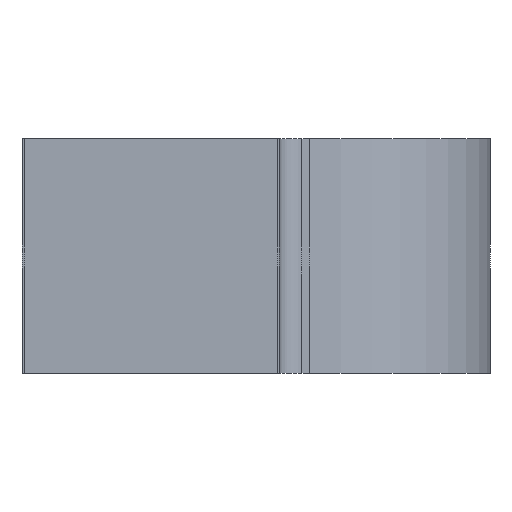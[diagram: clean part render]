
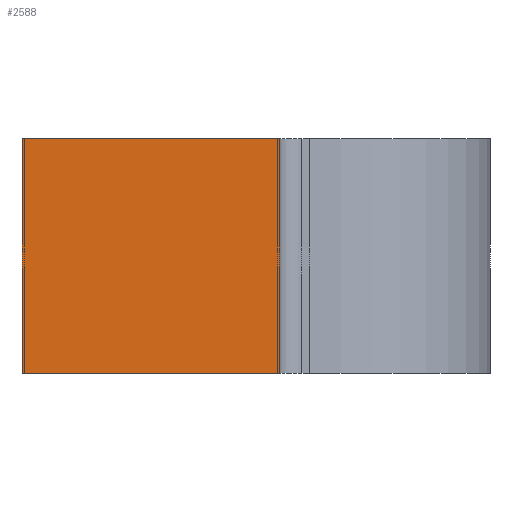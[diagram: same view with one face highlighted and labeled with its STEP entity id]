
A CAD part, left-side view. The second image highlights one B-rep face of the part: STEP entity #2588.
In plain terms, the highlighted planar face has unit normal (-1, 0, 0) as drawn and (1, 0, 0) by its records, which use the part's own axes.
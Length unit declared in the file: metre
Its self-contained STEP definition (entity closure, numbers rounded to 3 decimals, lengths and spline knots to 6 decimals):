
#225=ORIENTED_EDGE('',*,*,#970,.T.);
#226=ORIENTED_EDGE('',*,*,#969,.F.);
#227=ORIENTED_EDGE('',*,*,#971,.F.);
#228=ORIENTED_EDGE('',*,*,#956,.T.);
#956=EDGE_CURVE('',#1334,#1333,#1591,.T.);
#969=EDGE_CURVE('',#1343,#1339,#1604,.T.);
#970=EDGE_CURVE('',#1333,#1339,#1605,.T.);
#971=EDGE_CURVE('',#1334,#1343,#1606,.T.);
#1333=VERTEX_POINT('',#3575);
#1334=VERTEX_POINT('',#3577);
#1339=VERTEX_POINT('',#3592);
#1343=VERTEX_POINT('',#3600);
#1591=LINE('',#3576,#1890);
#1604=LINE('',#3601,#1903);
#1605=LINE('',#3603,#1904);
#1606=LINE('',#3604,#1905);
#1890=VECTOR('',#2979,1.);
#1903=VECTOR('',#2996,1.);
#1904=VECTOR('',#2999,1.);
#1905=VECTOR('',#3000,1.);
#2182=EDGE_LOOP('',(#225,#226,#227,#228));
#2333=FACE_BOUND('',#2182,.T.);
#2484=PLANE('',#2807);
#2588=ADVANCED_FACE('',(#2333),#2484,.F.);
#2807=AXIS2_PLACEMENT_3D('',#3602,#2997,#2998);
#2979=DIRECTION('',(0.,-1.,0.));
#2996=DIRECTION('',(0.,-1.,0.));
#2997=DIRECTION('',(-1.,0.,0.));
#2998=DIRECTION('',(0.,0.,1.));
#2999=DIRECTION('',(0.,0.,-1.));
#3000=DIRECTION('',(0.,0.,-1.));
#3575=CARTESIAN_POINT('',(0.0015,0.,0.001));
#3576=CARTESIAN_POINT('',(0.0015,0.00001,0.001));
#3577=CARTESIAN_POINT('',(0.0015,0.0011,0.001));
#3592=CARTESIAN_POINT('',(0.0015,0.,0.));
#3600=CARTESIAN_POINT('',(0.0015,0.0011,0.));
#3601=CARTESIAN_POINT('',(0.0015,0.00001,0.));
#3602=CARTESIAN_POINT('',(0.0015,0.00001,0.001));
#3603=CARTESIAN_POINT('',(0.0015,0.,0.001));
#3604=CARTESIAN_POINT('',(0.0015,0.0011,0.001));
